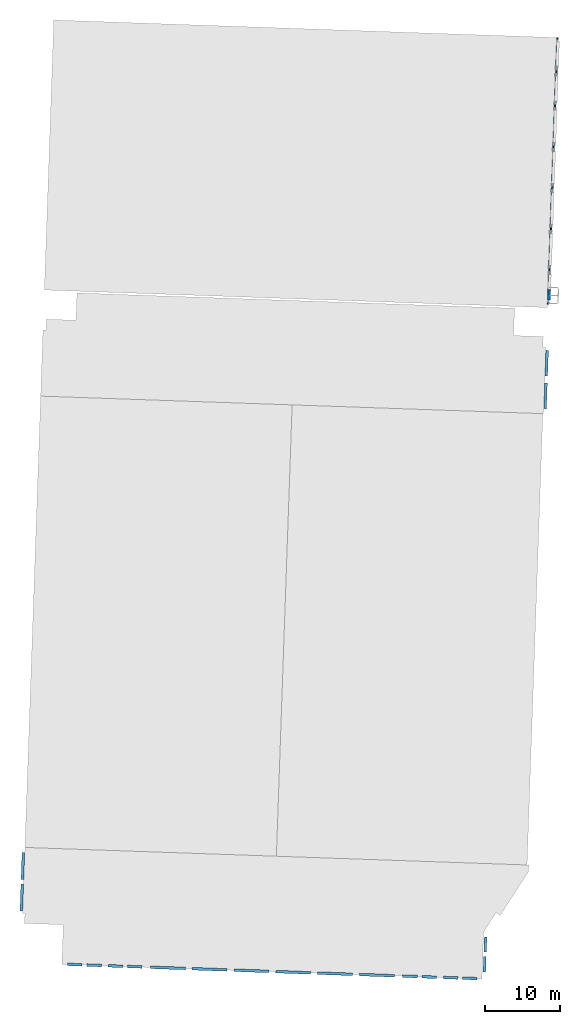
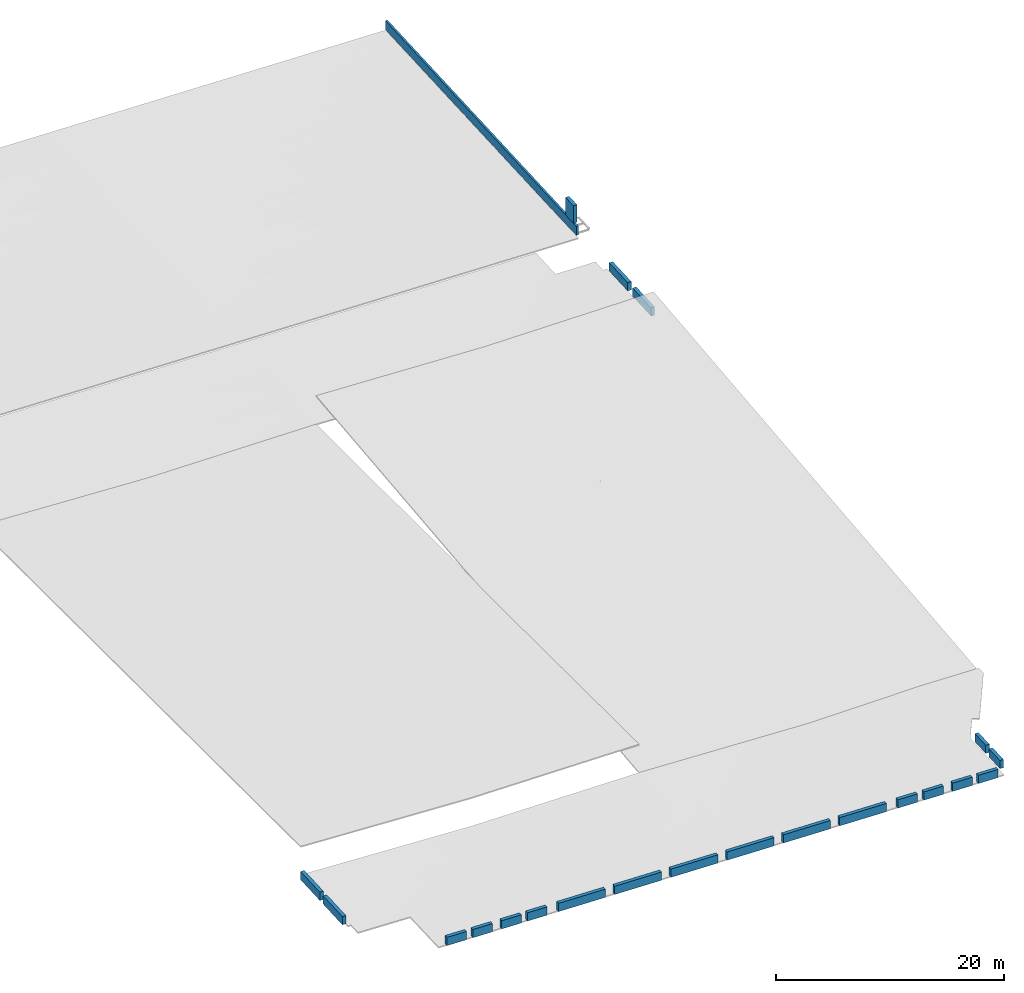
# One storey, part 2 of 4: 22 walls.
"""IFC2X3 building model written with IfcOpenShell, lengths in feet."""

from ifc_helpers import new_model, entity, si_unit, converted_unit, derived_unit, direction, frame, frame_2d, origin, place, context, subcontext, project, spatial, rectangle, extrude, material, layer, layer_set, layer_usage, type_object, element, save


model = new_model("IFC2X3")

# Units and contexts
model_context = context("Model", 3, precision=0.0001, world=origin(), true_north=direction((0.999390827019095, 0.0348994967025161)))
body_context = subcontext(model_context, "Body", "Model", "MODEL_VIEW")
ifc_project = project(units=[converted_unit("LENGTHUNIT", "FOOT", entity("IfcRatioMeasure", 0.3048), si_unit("LENGTHUNIT", "METRE"), dimensions=[1, 0, 0, 0, 0, 0, 0]), converted_unit("AREAUNIT", "SQUARE FOOT", entity("IfcRatioMeasure", 0.09290304), si_unit("AREAUNIT", "SQUARE_METRE"), dimensions=[2, 0, 0, 0, 0, 0, 0]), converted_unit("VOLUMEUNIT", "CUBIC FOOT", entity("IfcRatioMeasure", 0.028316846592), si_unit("VOLUMEUNIT", "CUBIC_METRE"), dimensions=[3, 0, 0, 0, 0, 0, 0]), converted_unit("PLANEANGLEUNIT", "DEGREE", entity("IfcRatioMeasure", 0.0174532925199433), si_unit("PLANEANGLEUNIT", "RADIAN"), dimensions=[0, 0, 0, 0, 0, 0, 0]), si_unit("MASSUNIT", "GRAM", prefix="KILO"), si_unit("TIMEUNIT", "SECOND"), si_unit("FREQUENCYUNIT", "HERTZ"), si_unit("THERMODYNAMICTEMPERATUREUNIT", "DEGREE_CELSIUS"), derived_unit("THERMALTRANSMITTANCEUNIT", [(si_unit("MASSUNIT", "GRAM", prefix="KILO"), 1), (si_unit("THERMODYNAMICTEMPERATUREUNIT", "KELVIN"), -1), (si_unit("TIMEUNIT", "SECOND"), -3)]), derived_unit("VOLUMETRICFLOWRATEUNIT", [(si_unit("LENGTHUNIT", "METRE"), 3), (si_unit("TIMEUNIT", "SECOND"), -1)]), si_unit("ELECTRICCURRENTUNIT", "AMPERE"), si_unit("ELECTRICVOLTAGEUNIT", "VOLT"), si_unit("POWERUNIT", "WATT"), si_unit("FORCEUNIT", "NEWTON"), si_unit("ILLUMINANCEUNIT", "LUX"), si_unit("LUMINOUSFLUXUNIT", "LUMEN"), si_unit("LUMINOUSINTENSITYUNIT", "CANDELA"), derived_unit("USERDEFINED", [(si_unit("MASSUNIT", "GRAM", prefix="KILO"), -1), (si_unit("LENGTHUNIT", "METRE"), -2), (si_unit("TIMEUNIT", "SECOND"), 3), (si_unit("LUMINOUSFLUXUNIT", "LUMEN"), 1)]), derived_unit("LINEARVELOCITYUNIT", [(si_unit("LENGTHUNIT", "METRE"), 1), (si_unit("TIMEUNIT", "SECOND"), -1)]), si_unit("PRESSUREUNIT", "PASCAL"), derived_unit("USERDEFINED", [(si_unit("LENGTHUNIT", "METRE"), -2), (si_unit("MASSUNIT", "GRAM", prefix="KILO"), 1), (si_unit("TIMEUNIT", "SECOND"), -2)])], contexts=[model_context])

# Site, building, storey
site_placement = place(None, frame((892.518771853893, 322.38689265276, 0.00393700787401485), z_axis=(0.0, 0.0, 1.0), x_axis=(0.0348994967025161, 0.999390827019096, 0.0)))
site = spatial("IfcSite", under=ifc_project, at=site_placement, Name="Default", CompositionType="ELEMENT")
building_placement = place(site_placement, origin())
building = spatial("IfcBuilding", under=site, at=building_placement, CompositionType="ELEMENT")
storey_placement = place(building_placement, frame((0.0, 0.0, 577.0)))
storey = spatial("IfcBuildingStorey", under=building, at=storey_placement, Name="Existing Garage - 3rd Level", CompositionType="ELEMENT", Elevation=577.0)

# Walls
ifc_material_1 = material(Name="Masonry - Brick")
ifc_layer_1 = layer(ifc_material_1, 0.302083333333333)
ifc_material_2 = material(Name="Misc. Air Layers - Air Space")
ifc_layer_2 = layer(ifc_material_2, 0.197916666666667)
ifc_material_3 = material(Name="Concrete - Cast-in-Place Concrete_hatch surface")
ifc_layer_3 = layer(ifc_material_3, 0.666666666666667)
ifc_layer_set_1 = layer_set([ifc_layer_1, ifc_layer_2, ifc_layer_3], Name="Basic Wall:(existing)Exterior - Brick on Conc - 1'-2\"(2\" air space)")
ifc_layer_usage_1 = layer_usage(ifc_layer_set_1, "AXIS2", "POSITIVE", -0.583333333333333)
wall_type_1 = type_object("IfcWallType", Name="Basic Wall:(existing)Exterior - Brick on Conc - 1'-2\"(2\" air space)", PredefinedType="STANDARD", material=ifc_layer_set_1)
wall_1_placement = place(storey_placement, frame((74.4272968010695, 235.847286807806, 0.0)))
element("IfcWallStandardCase", 1, at=wall_1_placement, inside=storey, type_object=wall_type_1, material=ifc_layer_usage_1, Name="Basic Wall:(existing)Exterior - Brick on Conc - 1'-2\"(2\" air space)", ObjectType="Basic Wall:(existing)Exterior - Brick on Conc - 1'-2\"(2\" air space)", context=body_context, shape_type="SweptSolid", body=[
    extrude(rectangle(XDim=11.3333333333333, YDim=1.16666666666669, at=frame_2d((5.66666666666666, 0.0), x_axis=(-1.0, 0.0))), origin(), (0.0, 0.0, 1.0), 2.89583333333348),
])
ifc_layer_usage_2 = layer_usage(ifc_layer_set_1, "AXIS2", "POSITIVE", -0.583333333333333)
wall_2_placement = place(storey_placement, frame((60.0939209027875, 235.847286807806, 0.0)))
element("IfcWallStandardCase", 2, at=wall_2_placement, inside=storey, type_object=wall_type_1, material=ifc_layer_usage_2, Name="Basic Wall:(existing)Exterior - Brick on Conc - 1'-2\"(2\" air space)", ObjectType="Basic Wall:(existing)Exterior - Brick on Conc - 1'-2\"(2\" air space)", context=body_context, shape_type="SweptSolid", body=[
    extrude(rectangle(XDim=11.333375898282, YDim=1.16666666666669, at=frame_2d((5.66668794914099, 0.0), x_axis=(-1.0, 0.0))), origin(), (0.0, 0.0, 1.0), 2.89583333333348),
])
ifc_layer_usage_3 = layer_usage(ifc_layer_set_1, "AXIS2", "POSITIVE", -0.583333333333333)
wall_3_placement = place(storey_placement, frame((-187.572745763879, 253.847286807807, 0.0)))
element("IfcWallStandardCase", 3, at=wall_3_placement, inside=storey, type_object=wall_type_1, material=ifc_layer_usage_3, Name="Basic Wall:(existing)Exterior - Brick on Conc - 1'-2\"(2\" air space)", ObjectType="Basic Wall:(existing)Exterior - Brick on Conc - 1'-2\"(2\" air space)", context=body_context, shape_type="SweptSolid", body=[
    extrude(rectangle(XDim=6.66666666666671, YDim=1.16666666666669, at=frame_2d((3.33333333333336, -5.82867087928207e-15), x_axis=(-1.0, 0.0))), origin(), (0.0, 0.0, 1.0), 2.89583333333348),
])
ifc_layer_usage_4 = layer_usage(ifc_layer_set_1, "AXIS2", "POSITIVE", -0.583333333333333)
wall_4_placement = place(storey_placement, frame((-178.906079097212, 253.847286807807, 0.0)))
element("IfcWallStandardCase", 4, at=wall_4_placement, inside=storey, type_object=wall_type_1, material=ifc_layer_usage_4, Name="Basic Wall:(existing)Exterior - Brick on Conc - 1'-2\"(2\" air space)", ObjectType="Basic Wall:(existing)Exterior - Brick on Conc - 1'-2\"(2\" air space)", context=body_context, shape_type="SweptSolid", body=[
    extrude(rectangle(XDim=6.66666666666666, YDim=1.16666666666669, at=frame_2d((3.33333333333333, -5.82867087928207e-15), x_axis=(-1.0, 0.0))), origin(), (0.0, 0.0, 1.0), 2.89583333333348),
])
ifc_layer_usage_5 = layer_usage(ifc_layer_set_1, "AXIS2", "POSITIVE", -0.583333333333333)
wall_5_placement = place(storey_placement, frame((-190.656079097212, 436.597423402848, 0.0), z_axis=(0.0, 0.0, 1.0), x_axis=(0.0, -1.0, 0.0)))
element("IfcWallStandardCase", 5, at=wall_5_placement, inside=storey, type_object=wall_type_1, material=ifc_layer_usage_5, Name="Basic Wall:(existing)Exterior - Brick on Conc - 1'-2\"(2\" air space)", ObjectType="Basic Wall:(existing)Exterior - Brick on Conc - 1'-2\"(2\" air space)", context=body_context, shape_type="SweptSolid", body=[
    extrude(rectangle(XDim=6.41670081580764, YDim=1.16666666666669, at=frame_2d((3.20835040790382, -3.38618022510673e-15), x_axis=(-1.0, 0.0))), origin(), (0.0, 0.0, 1.0), 2.89583333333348),
])
ifc_layer_usage_6 = layer_usage(ifc_layer_set_1, "AXIS2", "POSITIVE", -0.583333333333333)
wall_6_placement = place(storey_placement, frame((-190.656079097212, 428.180722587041, 0.0), z_axis=(0.0, 0.0, 1.0), x_axis=(0.0, -1.0, 0.0)))
element("IfcWallStandardCase", 6, at=wall_6_placement, inside=storey, type_object=wall_type_1, material=ifc_layer_usage_6, Name="Basic Wall:(existing)Exterior - Brick on Conc - 1'-2\"(2\" air space)", ObjectType="Basic Wall:(existing)Exterior - Brick on Conc - 1'-2\"(2\" air space)", context=body_context, shape_type="SweptSolid", body=[
    extrude(rectangle(XDim=6.41670081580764, YDim=1.16666666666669, at=frame_2d((3.20835040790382, -3.38618022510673e-15), x_axis=(-1.0, 0.0))), origin(), (0.0, 0.0, 1.0), 2.89583333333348),
])
ifc_layer_usage_7 = layer_usage(ifc_layer_set_1, "AXIS2", "POSITIVE", -0.583333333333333)
wall_7_placement = place(storey_placement, frame((-190.656079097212, 418.764021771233, 0.0), z_axis=(0.0, 0.0, 1.0), x_axis=(0.0, -1.0, 0.0)))
element("IfcWallStandardCase", 7, at=wall_7_placement, inside=storey, type_object=wall_type_1, material=ifc_layer_usage_7, Name="Basic Wall:(existing)Exterior - Brick on Conc - 1'-2\"(2\" air space)", ObjectType="Basic Wall:(existing)Exterior - Brick on Conc - 1'-2\"(2\" air space)", context=body_context, shape_type="SweptSolid", body=[
    extrude(rectangle(XDim=6.41670081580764, YDim=1.16666666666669, at=frame_2d((3.20835040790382, -3.38618022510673e-15), x_axis=(-1.0, 0.0))), origin(), (0.0, 0.0, 1.0), 2.89583333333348),
])
ifc_layer_usage_8 = layer_usage(ifc_layer_set_1, "AXIS2", "POSITIVE", -0.583333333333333)
wall_8_placement = place(storey_placement, frame((-190.656079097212, 410.347320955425, 0.0), z_axis=(0.0, 0.0, 1.0), x_axis=(0.0, -1.0, 0.0)))
element("IfcWallStandardCase", 8, at=wall_8_placement, inside=storey, type_object=wall_type_1, material=ifc_layer_usage_8, Name="Basic Wall:(existing)Exterior - Brick on Conc - 1'-2\"(2\" air space)", ObjectType="Basic Wall:(existing)Exterior - Brick on Conc - 1'-2\"(2\" air space)", context=body_context, shape_type="SweptSolid", body=[
    extrude(rectangle(XDim=6.41670081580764, YDim=1.16666666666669, at=frame_2d((3.20835040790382, -3.38618022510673e-15), x_axis=(-1.0, 0.0))), origin(), (0.0, 0.0, 1.0), 2.89583333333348),
])
ifc_layer_usage_9 = layer_usage(ifc_layer_set_1, "AXIS2", "POSITIVE", -0.583333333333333)
wall_9_placement = place(storey_placement, frame((-190.656079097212, 400.263953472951, 0.0), z_axis=(0.0, 0.0, 1.0), x_axis=(0.0, -1.0, 0.0)))
element("IfcWallStandardCase", 9, at=wall_9_placement, inside=storey, type_object=wall_type_1, material=ifc_layer_usage_9, Name="Basic Wall:(existing)Exterior - Brick on Conc - 1'-2\"(2\" air space)", ObjectType="Basic Wall:(existing)Exterior - Brick on Conc - 1'-2\"(2\" air space)", context=body_context, shape_type="SweptSolid", body=[
    extrude(rectangle(XDim=15.3333333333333, YDim=1.16666666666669, at=frame_2d((7.66666666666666, 6.10622663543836e-16), x_axis=(-1.0, 0.0))), origin(), (0.0, 0.0, 1.0), 2.89583333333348),
])
ifc_layer_usage_10 = layer_usage(ifc_layer_set_1, "AXIS2", "POSITIVE", -0.583333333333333)
wall_10_placement = place(storey_placement, frame((-190.656079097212, 381.930620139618, 0.0), z_axis=(0.0, 0.0, 1.0), x_axis=(0.0, -1.0, 0.0)))
element("IfcWallStandardCase", 10, at=wall_10_placement, inside=storey, type_object=wall_type_1, material=ifc_layer_usage_10, Name="Basic Wall:(existing)Exterior - Brick on Conc - 1'-2\"(2\" air space)", ObjectType="Basic Wall:(existing)Exterior - Brick on Conc - 1'-2\"(2\" air space)", context=body_context, shape_type="SweptSolid", body=[
    extrude(rectangle(XDim=15.3333333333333, YDim=1.16666666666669, at=frame_2d((7.66666666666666, 6.10622663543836e-16), x_axis=(-1.0, 0.0))), origin(), (0.0, 0.0, 1.0), 2.89583333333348),
])
ifc_layer_usage_11 = layer_usage(ifc_layer_set_1, "AXIS2", "POSITIVE", -0.583333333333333)
wall_11_placement = place(storey_placement, frame((-190.656079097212, 363.597286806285, 0.0), z_axis=(0.0, 0.0, 1.0), x_axis=(0.0, -1.0, 0.0)))
element("IfcWallStandardCase", 11, at=wall_11_placement, inside=storey, type_object=wall_type_1, material=ifc_layer_usage_11, Name="Basic Wall:(existing)Exterior - Brick on Conc - 1'-2\"(2\" air space)", ObjectType="Basic Wall:(existing)Exterior - Brick on Conc - 1'-2\"(2\" air space)", context=body_context, shape_type="SweptSolid", body=[
    extrude(rectangle(XDim=15.3333333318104, YDim=1.16666666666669, at=frame_2d((7.66666666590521, 6.10622663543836e-16), x_axis=(-1.0, 0.0))), origin(), (0.0, 0.0, 1.0), 2.89583333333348),
])
ifc_layer_usage_12 = layer_usage(ifc_layer_set_1, "AXIS2", "POSITIVE", -0.583333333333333)
wall_12_placement = place(storey_placement, frame((-190.656079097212, 345.263953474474, 0.0), z_axis=(0.0, 0.0, 1.0), x_axis=(0.0, -1.0, 0.0)))
element("IfcWallStandardCase", 12, at=wall_12_placement, inside=storey, type_object=wall_type_1, material=ifc_layer_usage_12, Name="Basic Wall:(existing)Exterior - Brick on Conc - 1'-2\"(2\" air space)", ObjectType="Basic Wall:(existing)Exterior - Brick on Conc - 1'-2\"(2\" air space)", context=body_context, shape_type="SweptSolid", body=[
    extrude(rectangle(XDim=15.3331147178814, YDim=1.16666666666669, at=frame_2d((7.66655735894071, 6.10622663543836e-16), x_axis=(-1.0, 0.0))), origin(), (0.0, 0.0, 1.0), 2.89583333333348),
])
ifc_layer_usage_13 = layer_usage(ifc_layer_set_1, "AXIS2", "POSITIVE", -0.583333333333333)
wall_13_placement = place(storey_placement, frame((-190.656079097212, 326.930838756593, 0.0), z_axis=(0.0, 0.0, 1.0), x_axis=(0.0, -1.0, 0.0)))
element("IfcWallStandardCase", 13, at=wall_13_placement, inside=storey, type_object=wall_type_1, material=ifc_layer_usage_13, Name="Basic Wall:(existing)Exterior - Brick on Conc - 1'-2\"(2\" air space)", ObjectType="Basic Wall:(existing)Exterior - Brick on Conc - 1'-2\"(2\" air space)", context=body_context, shape_type="SweptSolid", body=[
    extrude(rectangle(XDim=15.3333333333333, YDim=1.16666666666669, at=frame_2d((7.66666666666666, 6.10622663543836e-16), x_axis=(-1.0, 0.0))), origin(), (0.0, 0.0, 1.0), 2.89583333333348),
])
ifc_layer_usage_14 = layer_usage(ifc_layer_set_1, "AXIS2", "POSITIVE", -0.583333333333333)
wall_14_placement = place(storey_placement, frame((-190.656079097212, 308.59750542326, 0.0), z_axis=(0.0, 0.0, 1.0), x_axis=(0.0, -1.0, 0.0)))
element("IfcWallStandardCase", 14, at=wall_14_placement, inside=storey, type_object=wall_type_1, material=ifc_layer_usage_14, Name="Basic Wall:(existing)Exterior - Brick on Conc - 1'-2\"(2\" air space)", ObjectType="Basic Wall:(existing)Exterior - Brick on Conc - 1'-2\"(2\" air space)", context=body_context, shape_type="SweptSolid", body=[
    extrude(rectangle(XDim=15.3333333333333, YDim=1.16666666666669, at=frame_2d((7.66666666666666, 6.10622663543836e-16), x_axis=(-1.0, 0.0))), origin(), (0.0, 0.0, 1.0), 2.89583333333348),
])
ifc_layer_usage_15 = layer_usage(ifc_layer_set_1, "AXIS2", "POSITIVE", -0.583333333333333)
wall_15_placement = place(storey_placement, frame((-190.656079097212, 289.597286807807, 0.0), z_axis=(0.0, 0.0, 1.0), x_axis=(0.0, -1.0, 0.0)))
element("IfcWallStandardCase", 15, at=wall_15_placement, inside=storey, type_object=wall_type_1, material=ifc_layer_usage_15, Name="Basic Wall:(existing)Exterior - Brick on Conc - 1'-2\"(2\" air space)", ObjectType="Basic Wall:(existing)Exterior - Brick on Conc - 1'-2\"(2\" air space)", context=body_context, shape_type="SweptSolid", body=[
    extrude(rectangle(XDim=6.41666666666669, YDim=1.16666666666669, at=frame_2d((3.20833333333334, -3.38618022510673e-15), x_axis=(-1.0, 0.0))), origin(), (0.0, 0.0, 1.0), 2.89583333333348),
])
ifc_layer_usage_16 = layer_usage(ifc_layer_set_1, "AXIS2", "POSITIVE", -0.583333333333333)
wall_16_placement = place(storey_placement, frame((-190.656079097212, 281.180620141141, 0.0), z_axis=(0.0, 0.0, 1.0), x_axis=(0.0, -1.0, 0.0)))
element("IfcWallStandardCase", 16, at=wall_16_placement, inside=storey, type_object=wall_type_1, material=ifc_layer_usage_16, Name="Basic Wall:(existing)Exterior - Brick on Conc - 1'-2\"(2\" air space)", ObjectType="Basic Wall:(existing)Exterior - Brick on Conc - 1'-2\"(2\" air space)", context=body_context, shape_type="SweptSolid", body=[
    extrude(rectangle(XDim=6.41666666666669, YDim=1.16666666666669, at=frame_2d((3.20833333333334, -3.38618022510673e-15), x_axis=(-1.0, 0.0))), origin(), (0.0, 0.0, 1.0), 2.89583333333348),
])
ifc_layer_usage_17 = layer_usage(ifc_layer_set_1, "AXIS2", "POSITIVE", -0.583333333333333)
wall_17_placement = place(storey_placement, frame((-190.656079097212, 271.763953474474, 0.0), z_axis=(0.0, 0.0, 1.0), x_axis=(0.0, -1.0, 0.0)))
element("IfcWallStandardCase", 17, at=wall_17_placement, inside=storey, type_object=wall_type_1, material=ifc_layer_usage_17, Name="Basic Wall:(existing)Exterior - Brick on Conc - 1'-2\"(2\" air space)", ObjectType="Basic Wall:(existing)Exterior - Brick on Conc - 1'-2\"(2\" air space)", context=body_context, shape_type="SweptSolid", body=[
    extrude(rectangle(XDim=6.41666666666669, YDim=1.16666666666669, at=frame_2d((3.20833333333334, -3.38618022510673e-15), x_axis=(-1.0, 0.0))), origin(), (0.0, 0.0, 1.0), 2.89583333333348),
])
ifc_layer_usage_18 = layer_usage(ifc_layer_set_1, "AXIS2", "POSITIVE", -0.583333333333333)
wall_18_placement = place(storey_placement, frame((-190.656079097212, 263.347286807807, 0.0), z_axis=(0.0, 0.0, 1.0), x_axis=(0.0, -1.0, 0.0)))
element("IfcWallStandardCase", 18, at=wall_18_placement, inside=storey, type_object=wall_type_1, material=ifc_layer_usage_18, Name="Basic Wall:(existing)Exterior - Brick on Conc - 1'-2\"(2\" air space)", ObjectType="Basic Wall:(existing)Exterior - Brick on Conc - 1'-2\"(2\" air space)", context=body_context, shape_type="SweptSolid", body=[
    extrude(rectangle(XDim=6.4166666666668, YDim=1.16666666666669, at=frame_2d((3.2083333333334, -3.38618022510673e-15), x_axis=(-1.0, 0.0))), origin(), (0.0, 0.0, 1.0), 2.89583333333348),
])
ifc_layer_usage_19 = layer_usage(ifc_layer_set_1, "AXIS2", "POSITIVE", -0.583333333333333)
wall_19_placement = place(storey_placement, frame((-156.072745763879, 457.680620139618, 0.0), z_axis=(0.0, 0.0, 1.0), x_axis=(-1.0, 0.0, 0.0)))
element("IfcWallStandardCase", 19, at=wall_19_placement, inside=storey, type_object=wall_type_1, material=ifc_layer_usage_19, Name="Basic Wall:(existing)Exterior - Brick on Conc - 1'-2\"(2\" air space)", ObjectType="Basic Wall:(existing)Exterior - Brick on Conc - 1'-2\"(2\" air space)", context=body_context, shape_type="SweptSolid", body=[
    extrude(rectangle(XDim=11.8333333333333, YDim=1.16666666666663, at=frame_2d((5.91666666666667, -5.32907051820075e-15), x_axis=(-1.0, 0.0))), origin(), (0.0, 0.0, 1.0), 2.89583333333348),
])
ifc_layer_usage_20 = layer_usage(ifc_layer_set_1, "AXIS2", "NEGATIVE", 0.583333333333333)
wall_20_placement = place(storey_placement, frame((-154.072745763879, 457.680620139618, 0.0)))
element("IfcWallStandardCase", 20, at=wall_20_placement, inside=storey, type_object=wall_type_1, material=ifc_layer_usage_20, Name="Basic Wall:(existing)Exterior - Brick on Conc - 1'-2\"(2\" air space)", ObjectType="Basic Wall:(existing)Exterior - Brick on Conc - 1'-2\"(2\" air space)", context=body_context, shape_type="SweptSolid", body=[
    extrude(rectangle(XDim=11.8333333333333, YDim=1.16666666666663, at=frame_2d((5.91666666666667, 5.32907051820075e-15), x_axis=(-1.0, 0.0))), origin(), (0.0, 0.0, 1.0), 2.89583333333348),
])
ifc_layer_4 = layer(ifc_material_1, 0.302083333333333)
ifc_material_4 = material(Name="Air Barrier - Air Infiltration Barrier")
ifc_layer_5 = layer(ifc_material_4, 0.229166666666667)
ifc_material_5 = material(Name="Masonry - Concrete Masonry Units")
ifc_layer_6 = layer(ifc_material_5, 0.635416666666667)
ifc_layer_set_2 = layer_set([ifc_layer_4, ifc_layer_5, ifc_layer_6], Name="Basic Wall:(existing) Exterior - Brick on CMU - 1'-2\"")
ifc_layer_usage_21 = layer_usage(ifc_layer_set_2, "AXIS2", "POSITIVE", -0.583333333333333)
wall_type_2 = type_object("IfcWallType", Name="Basic Wall:(existing) Exterior - Brick on CMU - 1'-2\"", PredefinedType="STANDARD", material=ifc_layer_set_2)
wall_21_placement = place(storey_placement, frame((107.758753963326, 235.847286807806, 3.16000000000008)))
element("IfcWallStandardCase", 21, at=wall_21_placement, inside=storey, type_object=wall_type_2, material=ifc_layer_usage_21, Name="Basic Wall:(existing) Exterior - Brick on CMU - 1'-2\"", ObjectType="Basic Wall:(existing) Exterior - Brick on CMU - 1'-2\"", context=body_context, shape_type="SweptSolid", body=[
    extrude(rectangle(XDim=4.75093622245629, YDim=1.16666666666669, at=frame_2d((2.37546811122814, 0.0), x_axis=(-1.0, 0.0))), origin(), (0.0, 0.0, 1.0), 6.17333333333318),
])
ifc_material_6 = material(Name="Concrete - Cast-in-Place Concrete")
ifc_layer_7 = layer(ifc_material_6, 0.666666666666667)
ifc_layer_set_3 = layer_set([ifc_layer_7], Name="Basic Wall:Exterior - Conc 8\"")
ifc_layer_usage_22 = layer_usage(ifc_layer_set_3, "AXIS2", "NEGATIVE", 0.333333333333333)
wall_type_3 = type_object("IfcWallType", Name="Basic Wall:Exterior - Conc 8\"", PredefinedType="STANDARD", material=ifc_layer_set_3)
wall_22_placement = place(storey_placement, frame((222.927293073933, 236.097286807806, 0.0), z_axis=(0.0, 0.0, 1.0), x_axis=(-1.0, 0.0, 0.0)))
element("IfcWallStandardCase", 22, at=wall_22_placement, inside=storey, type_object=wall_type_3, material=ifc_layer_usage_22, Name="Basic Wall:Exterior - Conc 8\"", ObjectType="Basic Wall:Exterior - Conc 8\"", context=body_context, shape_type="SweptSolid", body=[
    extrude(rectangle(XDim=116.999999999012, YDim=0.666666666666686, at=frame_2d((58.499999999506, -5.68989300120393e-15), x_axis=(-1.0, 0.0))), origin(), (0.0, 0.0, 1.0), 3.15999999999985),
])

save(model, "model.ifc")
